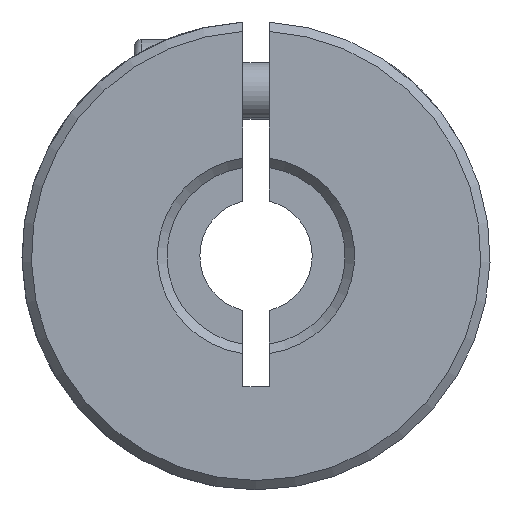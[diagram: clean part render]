
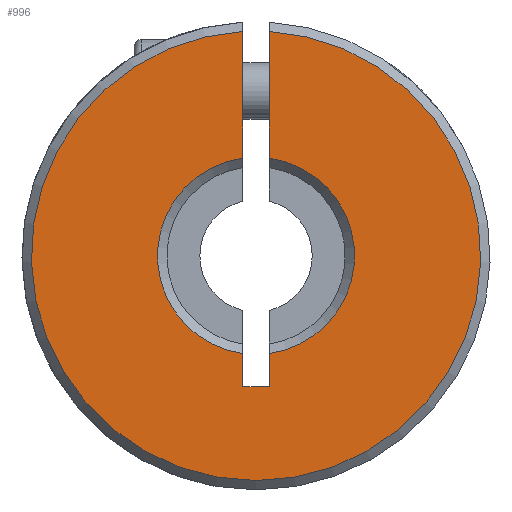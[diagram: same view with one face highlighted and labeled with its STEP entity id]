
A CAD part, front view. The second image highlights one B-rep face of the part: STEP entity #996.
In plain terms, the highlighted planar face has unit normal (0, -1, 0).
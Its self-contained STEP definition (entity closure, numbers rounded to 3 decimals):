
#103 = CARTESIAN_POINT ( 'NONE',  ( 0.7, 0.25, 11.98 ) ) ;
#191 = ORIENTED_EDGE ( 'NONE', *, *, #1007, .F. ) ;
#282 = DIRECTION ( 'NONE',  ( 0., 0., 1. ) ) ;
#307 = CARTESIAN_POINT ( 'NONE',  ( -0.7, 0.25, -5.216 ) ) ;
#359 = CARTESIAN_POINT ( 'NONE',  ( 0.7, 0.25, -5.216 ) ) ;
#592 = CARTESIAN_POINT ( 'NONE',  ( 0., 0.25, 0. ) ) ;
#678 = DIRECTION ( 'NONE',  ( 0., 1., 0. ) ) ;
#686 = LINE ( 'NONE', #4814, #1789 ) ;
#708 = LINE ( 'NONE', #1128, #5365 ) ;
#779 = EDGE_CURVE ( 'NONE', #1586, #5186, #1861, .T. ) ;
#913 = VERTEX_POINT ( 'NONE', #103 ) ;
#972 = ORIENTED_EDGE ( 'NONE', *, *, #3780, .F. ) ;
#996 = ADVANCED_FACE ( 'NONE', ( #2237 ), #4395, .F. ) ;
#1007 = EDGE_CURVE ( 'NONE', #4198, #3920, #3587, .T. ) ;
#1107 = CIRCLE ( 'NONE', #3141, 12. ) ;
#1128 = CARTESIAN_POINT ( 'NONE',  ( -0.7, 0.25, -7. ) ) ;
#1143 = LINE ( 'NONE', #4928, #5382 ) ;
#1182 = ORIENTED_EDGE ( 'NONE', *, *, #4358, .T. ) ;
#1191 = EDGE_CURVE ( 'NONE', #4240, #5186, #708, .T. ) ;
#1234 = EDGE_LOOP ( 'NONE', ( #4272, #4733, #2089, #191, #972, #3222, #3347, #1182 ) ) ;
#1479 = CARTESIAN_POINT ( 'NONE',  ( 0.7, 0.25, -7. ) ) ;
#1543 = EDGE_CURVE ( 'NONE', #4937, #913, #686, .T. ) ;
#1586 = VERTEX_POINT ( 'NONE', #307 ) ;
#1592 = AXIS2_PLACEMENT_3D ( 'NONE', #3124, #5201, #2296 ) ;
#1789 = VECTOR ( 'NONE', #2351, 1000. ) ;
#1861 = CIRCLE ( 'NONE', #2562, 5.263 ) ;
#1932 = DIRECTION ( 'NONE',  ( 0., 0., 1. ) ) ;
#1981 = CARTESIAN_POINT ( 'NONE',  ( -0.7, 0.25, -7. ) ) ;
#2089 = ORIENTED_EDGE ( 'NONE', *, *, #3125, .F. ) ;
#2204 = CARTESIAN_POINT ( 'NONE',  ( 0.7, 0.25, -7. ) ) ;
#2237 = FACE_OUTER_BOUND ( 'NONE', #1234, .T. ) ;
#2296 = DIRECTION ( 'NONE',  ( 0., 0., 1. ) ) ;
#2351 = DIRECTION ( 'NONE',  ( 0., 0., 1. ) ) ;
#2368 = LINE ( 'NONE', #1981, #4346 ) ;
#2382 = CARTESIAN_POINT ( 'NONE',  ( -0.7, 0.25, 11.98 ) ) ;
#2562 = AXIS2_PLACEMENT_3D ( 'NONE', #5336, #4455, #4866 ) ;
#2784 = DIRECTION ( 'NONE',  ( 0., 0., -1. ) ) ;
#2821 = VECTOR ( 'NONE', #3149, 1000. ) ;
#2947 = AXIS2_PLACEMENT_3D ( 'NONE', #4009, #678, #1932 ) ;
#3124 = CARTESIAN_POINT ( 'NONE',  ( 12.5, 0.25, -50. ) ) ;
#3125 = EDGE_CURVE ( 'NONE', #3920, #5058, #1143, .T. ) ;
#3141 = AXIS2_PLACEMENT_3D ( 'NONE', #592, #4869, #282 ) ;
#3149 = DIRECTION ( 'NONE',  ( 1., 0., 0. ) ) ;
#3222 = ORIENTED_EDGE ( 'NONE', *, *, #779, .T. ) ;
#3228 = DIRECTION ( 'NONE',  ( 0., 0., -1. ) ) ;
#3347 = ORIENTED_EDGE ( 'NONE', *, *, #1191, .F. ) ;
#3463 = CARTESIAN_POINT ( 'NONE',  ( -0.7, 0.25, -7. ) ) ;
#3587 = LINE ( 'NONE', #1479, #2821 ) ;
#3673 = DIRECTION ( 'NONE',  ( 0., 0., 1. ) ) ;
#3780 = EDGE_CURVE ( 'NONE', #1586, #4198, #2368, .T. ) ;
#3784 = EDGE_CURVE ( 'NONE', #4937, #5058, #4612, .T. ) ;
#3796 = CARTESIAN_POINT ( 'NONE',  ( -0.7, 0.25, 5.216 ) ) ;
#3889 = CARTESIAN_POINT ( 'NONE',  ( 0.7, 0.25, 5.216 ) ) ;
#3920 = VERTEX_POINT ( 'NONE', #2204 ) ;
#4009 = CARTESIAN_POINT ( 'NONE',  ( 0., 0.25, 0. ) ) ;
#4198 = VERTEX_POINT ( 'NONE', #3463 ) ;
#4240 = VERTEX_POINT ( 'NONE', #2382 ) ;
#4272 = ORIENTED_EDGE ( 'NONE', *, *, #1543, .F. ) ;
#4346 = VECTOR ( 'NONE', #3228, 1000. ) ;
#4358 = EDGE_CURVE ( 'NONE', #4240, #913, #1107, .T. ) ;
#4395 = PLANE ( 'NONE',  #1592 ) ;
#4455 = DIRECTION ( 'NONE',  ( 0., 1., 0. ) ) ;
#4612 = CIRCLE ( 'NONE', #2947, 5.263 ) ;
#4733 = ORIENTED_EDGE ( 'NONE', *, *, #3784, .T. ) ;
#4814 = CARTESIAN_POINT ( 'NONE',  ( 0.7, 0.25, -7. ) ) ;
#4866 = DIRECTION ( 'NONE',  ( 0., 0., 1. ) ) ;
#4869 = DIRECTION ( 'NONE',  ( 0., -1., 0. ) ) ;
#4928 = CARTESIAN_POINT ( 'NONE',  ( 0.7, 0.25, -7. ) ) ;
#4937 = VERTEX_POINT ( 'NONE', #3889 ) ;
#5058 = VERTEX_POINT ( 'NONE', #359 ) ;
#5186 = VERTEX_POINT ( 'NONE', #3796 ) ;
#5201 = DIRECTION ( 'NONE',  ( 0., 1., 0. ) ) ;
#5336 = CARTESIAN_POINT ( 'NONE',  ( 0., 0.25, 0. ) ) ;
#5365 = VECTOR ( 'NONE', #2784, 1000. ) ;
#5382 = VECTOR ( 'NONE', #3673, 1000. ) ;
